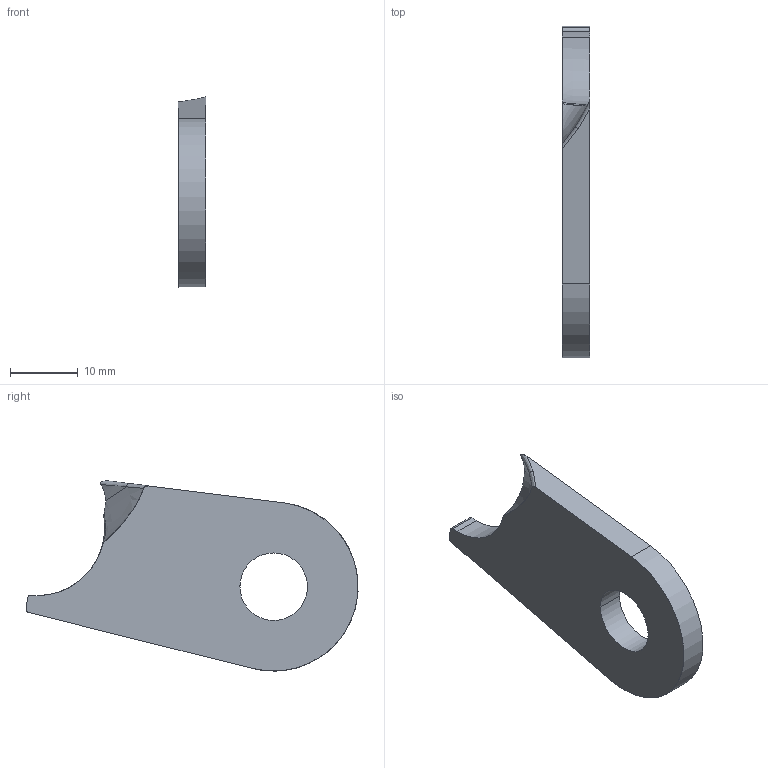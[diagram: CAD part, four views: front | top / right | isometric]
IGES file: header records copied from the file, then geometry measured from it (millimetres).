
Start section: START RECORD GO HERE.
Global section: file name: EN_06130 (Chape PE Droit Haut 2).igs; native system: IBM CATIA IGES - CATIA Version 5 Release 19 ; preprocessor: CATIA Version 5 Release 19 ; author: Martin Kawczynski; organization: DESKTOP-UDLM1FC; date: 20200104.165952; units: millimetre
Bounding box: 4 x 49.15 x 28.16 mm (x, y, z)
Surface area: 2273 mm2 (no closed solid volume)
Topology: 0 solids, 0 shells, 19 faces, 98 edges, 98 vertices
Faces by surface type: revolution 10, plane 5, bspline 4
